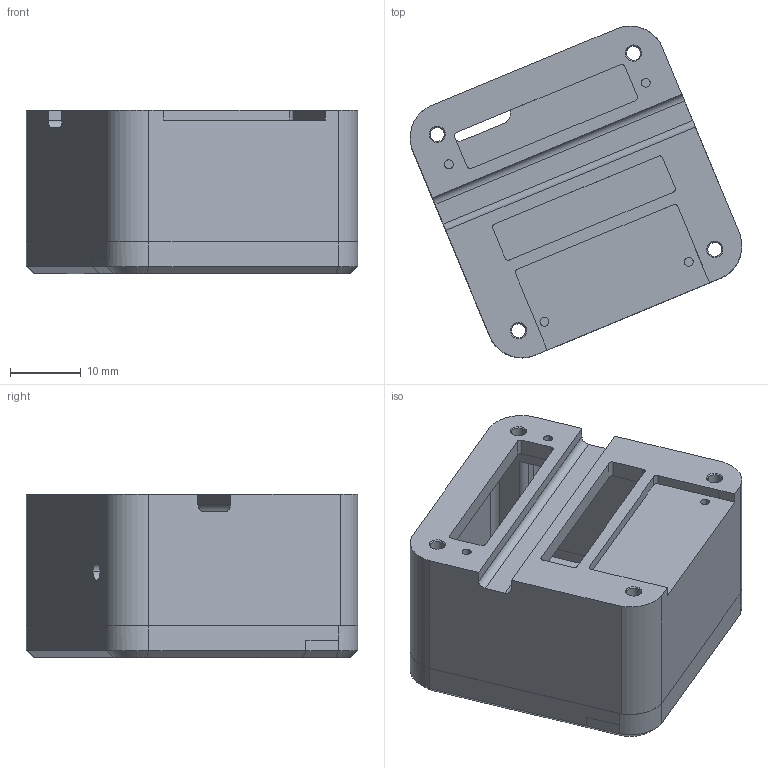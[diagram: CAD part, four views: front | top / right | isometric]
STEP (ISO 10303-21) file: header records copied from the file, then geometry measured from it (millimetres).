
FILE_DESCRIPTION (( 'STEP AP214' ), '1' );
FILE_NAME ('Cube Red1.STEP', '2024-03-11T02:23:53', ( '' ), ( '' ), 'SwSTEP 2.0', 'SolidWorks 2018', '' );
FILE_SCHEMA (( 'AUTOMOTIVE_DESIGN' ));
Length unit declared in the file: millimetre
Products named in the file (3): 396-00111 Cube Red Bottom Case V2; 396-00089 Cube Red Top Case.step; Cube Red1
Assembly tree (2 placements, depth 2):
  Cube Red1
    396-00111 Cube Red Bottom Case V2
    396-00089 Cube Red Top Case.step
Bounding box: 46.85 x 46.85 x 23.1 mm (x, y, z)
Volume: 8493.9 mm3; surface area: 12801.4 mm2
Topology: 2 solids, 3 shells, 298 faces, 802 edges, 516 vertices
Faces by surface type: cylinder 141, plane 126, cone 20, torus 4, bspline 4, sphere 3
Entity records: 9590 total; most frequent: CARTESIAN_POINT 1881, DIRECTION 1600, ORIENTED_EDGE 1598, EDGE_CURVE 799, AXIS2_PLACEMENT_3D 555, VERTEX_POINT 516, VECTOR 490, LINE 490
